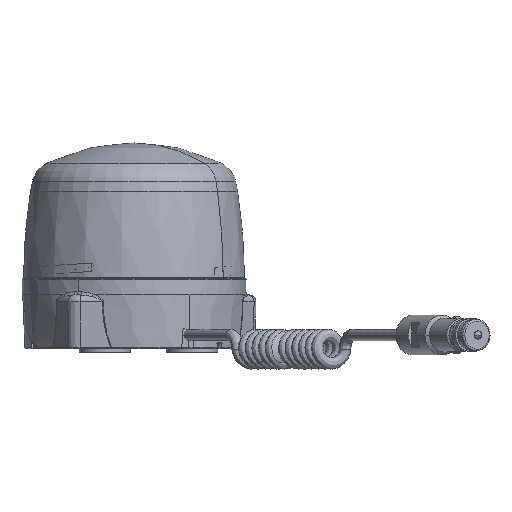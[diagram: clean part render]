
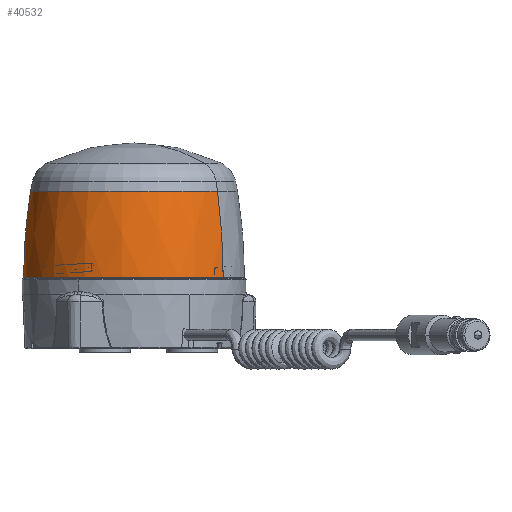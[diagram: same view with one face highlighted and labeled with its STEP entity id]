
A CAD part, front view. The second image highlights one B-rep face of the part: STEP entity #40532.
In plain terms, the highlighted face is a revolution surface.
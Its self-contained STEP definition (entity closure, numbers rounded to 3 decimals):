
#40462=AXIS2_PLACEMENT_3D('Circle Axis2P3D',#40460,#40461,$) ;
#40491=AXIS2_PLACEMENT_3D('Circle Axis2P3D',#40489,#40490,$) ;
#40440=CARTESIAN_POINT('Vertex',(50.364,-37.067,33.)) ;
#40457=CARTESIAN_POINT('Vertex',(-50.364,37.067,33.)) ;
#40460=CARTESIAN_POINT('Axis2P3D Location',(0.,0.,33.)) ;
#40473=CARTESIAN_POINT('Control Point',(26.428,-56.675,33.)) ;
#40474=CARTESIAN_POINT('Control Point',(26.668,-57.19,29.918)) ;
#40475=CARTESIAN_POINT('Control Point',(26.878,-57.64,26.823)) ;
#40476=CARTESIAN_POINT('Control Point',(27.061,-58.032,23.734)) ;
#40477=CARTESIAN_POINT('Control Point',(27.436,-58.837,16.467)) ;
#40478=CARTESIAN_POINT('Control Point',(27.703,-59.409,9.169)) ;
#40479=CARTESIAN_POINT('Control Point',(27.825,-59.672,5.036)) ;
#40480=CARTESIAN_POINT('Control Point',(28.,-60.047,-2.276)) ;
#40481=CARTESIAN_POINT('Control Point',(28.114,-60.291,-9.595)) ;
#40482=CARTESIAN_POINT('Control Point',(28.153,-60.374,-12.73)) ;
#40483=CARTESIAN_POINT('Control Point',(28.183,-60.438,-15.865)) ;
#40484=CARTESIAN_POINT('Control Point',(28.206,-60.487,-19.)) ;
#40485=CARTESIAN_POINT('Axis1P Location',(0.,0.,47.131)) ;
#40489=CARTESIAN_POINT('Axis2P3D Location',(0.,0.,-19.)) ;
#40493=CARTESIAN_POINT('Vertex',(-53.752,39.56,-19.)) ;
#40495=CARTESIAN_POINT('Vertex',(53.752,-39.56,-19.)) ;
#40499=CARTESIAN_POINT('Control Point',(50.364,-37.067,33.)) ;
#40500=CARTESIAN_POINT('Control Point',(50.822,-37.404,29.918)) ;
#40501=CARTESIAN_POINT('Control Point',(51.222,-37.698,26.823)) ;
#40502=CARTESIAN_POINT('Control Point',(51.57,-37.954,23.734)) ;
#40503=CARTESIAN_POINT('Control Point',(52.286,-38.481,16.467)) ;
#40504=CARTESIAN_POINT('Control Point',(52.794,-38.855,9.169)) ;
#40505=CARTESIAN_POINT('Control Point',(53.027,-39.027,5.036)) ;
#40506=CARTESIAN_POINT('Control Point',(53.361,-39.272,-2.276)) ;
#40507=CARTESIAN_POINT('Control Point',(53.577,-39.432,-9.595)) ;
#40508=CARTESIAN_POINT('Control Point',(53.651,-39.486,-12.73)) ;
#40509=CARTESIAN_POINT('Control Point',(53.708,-39.528,-15.865)) ;
#40510=CARTESIAN_POINT('Control Point',(53.752,-39.56,-19.)) ;
#40513=CARTESIAN_POINT('Control Point',(-50.364,37.067,33.)) ;
#40514=CARTESIAN_POINT('Control Point',(-50.822,37.404,29.918)) ;
#40515=CARTESIAN_POINT('Control Point',(-51.222,37.698,26.823)) ;
#40516=CARTESIAN_POINT('Control Point',(-51.57,37.954,23.734)) ;
#40517=CARTESIAN_POINT('Control Point',(-52.286,38.481,16.467)) ;
#40518=CARTESIAN_POINT('Control Point',(-52.794,38.855,9.169)) ;
#40519=CARTESIAN_POINT('Control Point',(-53.027,39.027,5.036)) ;
#40520=CARTESIAN_POINT('Control Point',(-53.361,39.272,-2.276)) ;
#40521=CARTESIAN_POINT('Control Point',(-53.577,39.432,-9.595)) ;
#40522=CARTESIAN_POINT('Control Point',(-53.651,39.486,-12.73)) ;
#40523=CARTESIAN_POINT('Control Point',(-53.708,39.528,-15.865)) ;
#40524=CARTESIAN_POINT('Control Point',(-53.752,39.56,-19.)) ;
#40461=DIRECTION('Axis2P3D Direction',(-0.,0.,1.)) ;
#40486=DIRECTION('Axis1P Direction',(-0.,0.,1.)) ;
#40490=DIRECTION('Axis2P3D Direction',(-0.,0.,1.)) ;
#40487=AXIS1_PLACEMENT('Revolution Surface Axis1P',#40485,#40486) ;
#40527=ORIENTED_EDGE('',*,*,#40497,.T.) ;
#40528=ORIENTED_EDGE('',*,*,#40511,.T.) ;
#40529=ORIENTED_EDGE('',*,*,#40464,.F.) ;
#40530=ORIENTED_EDGE('',*,*,#40525,.F.) ;
#40532=ADVANCED_FACE('Housing_gr',(#40531),#40488,.F.) ;
#40472=B_SPLINE_CURVE_WITH_KNOTS('',5,(#40473,#40474,#40475,#40476,#40477,#40478,#40479,#40480,#40481,#40482,#40483,#40484),.UNSPECIFIED.,.F.,.U.,(6,3,3,6),(0.,22.154,51.737,73.882),.UNSPECIFIED.) ;
#40498=B_SPLINE_CURVE_WITH_KNOTS('',5,(#40499,#40500,#40501,#40502,#40503,#40504,#40505,#40506,#40507,#40508,#40509,#40510),.UNSPECIFIED.,.F.,.U.,(6,3,3,6),(0.,22.154,51.737,73.882),.UNSPECIFIED.) ;
#40512=B_SPLINE_CURVE_WITH_KNOTS('',5,(#40513,#40514,#40515,#40516,#40517,#40518,#40519,#40520,#40521,#40522,#40523,#40524),.UNSPECIFIED.,.F.,.U.,(6,3,3,6),(0.,22.154,51.737,73.882),.UNSPECIFIED.) ;
#40463=CIRCLE('generated circle',#40462,62.534) ;
#40492=CIRCLE('generated circle',#40491,66.74) ;
#40464=EDGE_CURVE('',#40458,#40441,#40463,.T.) ;
#40497=EDGE_CURVE('',#40494,#40496,#40492,.T.) ;
#40511=EDGE_CURVE('',#40496,#40441,#40498,.F.) ;
#40525=EDGE_CURVE('',#40494,#40458,#40512,.F.) ;
#40526=EDGE_LOOP('',(#40527,#40528,#40529,#40530)) ;
#40531=FACE_OUTER_BOUND('',#40526,.T.) ;
#40488=SURFACE_OF_REVOLUTION('Surface of Revolution',#40472,#40487) ;
#40441=VERTEX_POINT('',#40440) ;
#40458=VERTEX_POINT('',#40457) ;
#40494=VERTEX_POINT('',#40493) ;
#40496=VERTEX_POINT('',#40495) ;
